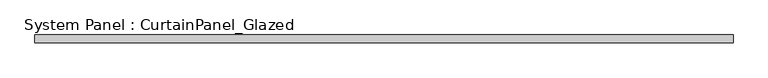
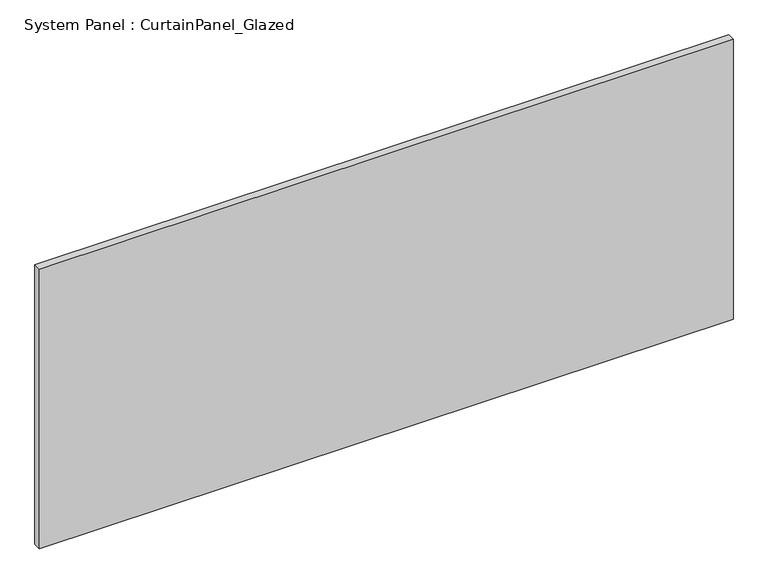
"""IFC4 building model written with IfcOpenShell, lengths in millimetres: plate geometry, System Panel : CurtainPanel_Glazed."""

from ifc_helpers import new_model, si_unit, origin, origin_with_axes, place, context, project, spatial, polyline, outline, extrude, source, transform, mapped, element, save


def system_panel_curtainpanel_glazed_29dab1f5(model_context):
    return source(origin(), model_context, "Body", "SweptSolid", [
        extrude(outline(polyline([(1113.6000001, -12.5), (-1113.6000001, -12.5), (-1113.6000001, 12.5), (1113.6000001, 12.5), (1113.6000001, -12.5)])), origin_with_axes(), (0.0, 0.0, 1.0), 950.0),
    ])


if __name__ == "__main__":
    model = new_model("IFC4")
    model_context = context("Model", 3, world=origin())
    ifc_project = project(units=[si_unit("LENGTHUNIT", "METRE", prefix="MILLI")], contexts=[model_context])
    site = spatial("IfcSite", under=ifc_project)
    building = spatial("IfcBuilding", under=site)
    placement = place(None, origin())
    system_panel_curtainpanel_glazed_shape = system_panel_curtainpanel_glazed_29dab1f5(model_context)
    element("IfcPlate", 1, ObjectType="System Panel : CurtainPanel_Glazed", at=placement, inside=building, context=model_context, shape_type="MappedRepresentation", body=[
        mapped(system_panel_curtainpanel_glazed_shape, transform((0.0, 0.0, 0.0), x_axis=(1.0, 0.0, 0.0), y_axis=(0.0, 1.0, 0.0), z_axis=(0.0, 0.0, 1.0))),
    ])
    save(model, "model.ifc")
